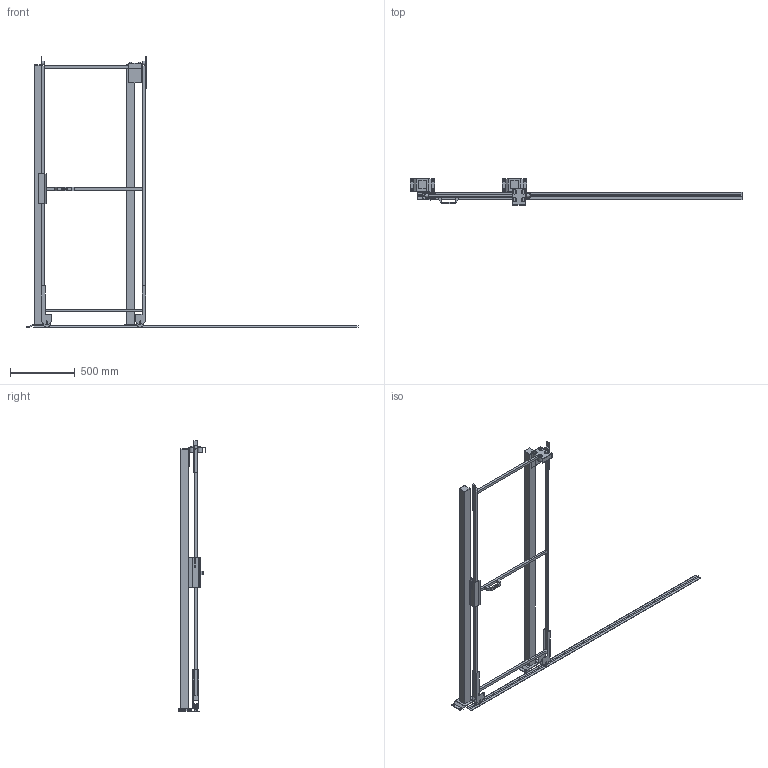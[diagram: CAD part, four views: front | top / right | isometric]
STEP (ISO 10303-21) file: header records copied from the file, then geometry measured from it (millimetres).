
FILE_DESCRIPTION(/* description */ (''),/* implementation_level */ '2;1');
FILE_NAME(/* name */ 'C:\SafeGuarding\ELABORATI\Drawing5_2025-04-02-10-06-45.stp',/* time_stamp */ '2025-04-02T10:06:49+02:00',/* author */ ('admin'),/* organization */ (''),/* preprocessor_version */ 'ST-DEVELOPER v18.1',/* originating_system */ 'AutoCAD Mechanical',/* authorisation */ '');
FILE_SCHEMA (('AUTOMOTIVE_DESIGN { 1 0 10303 214 3 1 1 }'));
Length unit declared in the file: millimetre
Products named in the file (3): Product; R_VFPA.REPE20.08001900; P_VFMA.V260SDU.2020
Assembly tree (3 placements, depth 2):
  Product
    R_VFPA.REPE20.08001900
    P_VFMA.V260SDU.2020  x2
Bounding box: 2561 x 210 x 2090 mm (x, y, z)
Volume: 18628868.4 mm3; surface area: 2310796 mm2
Topology: 32 solids, 43 shells, 328 faces, 1016 edges, 959 vertices
Faces by surface type: plane 282, cylinder 40, cone 4, sphere 2
Full cylindrical faces by diameter (mm): 9 x4, 11 x8, 13 x4, 18 x4, 30 x2, 36 x4, 58 x4
Entity records: 10533 total; most frequent: CARTESIAN_POINT 2251, DIRECTION 1610, ORIENTED_EDGE 1484, EDGE_CURVE 791, LINE 698, VECTOR 698, VERTEX_POINT 568, AXIS2_PLACEMENT_3D 456
